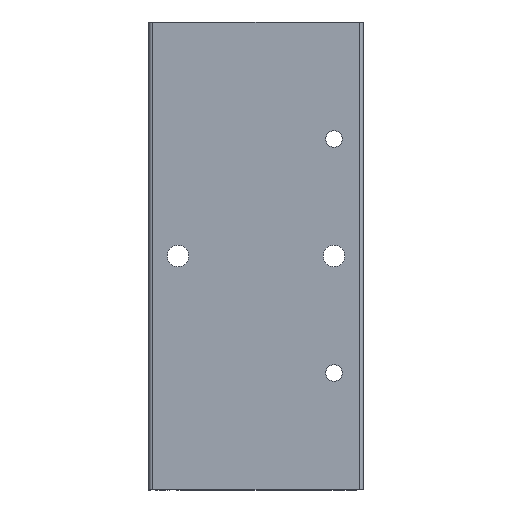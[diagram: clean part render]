
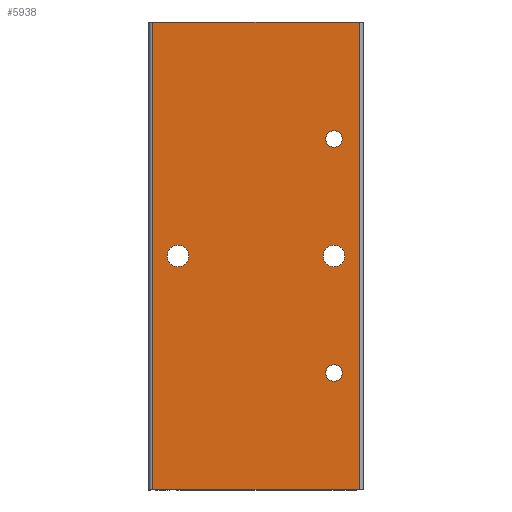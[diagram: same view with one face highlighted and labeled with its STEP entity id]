
A CAD part, front view. The second image highlights one B-rep face of the part: STEP entity #5938.
In plain terms, the highlighted planar face has unit normal (0, -1, 0).
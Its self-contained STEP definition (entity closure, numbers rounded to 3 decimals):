
#3 = VERTEX_POINT ( 'NONE', #413 ) ;
#26 = EDGE_CURVE ( 'NONE', #27, #28, #360, .T. ) ;
#27 = VERTEX_POINT ( 'NONE', #355 ) ;
#28 = VERTEX_POINT ( 'NONE', #354 ) ;
#52 = VERTEX_POINT ( 'NONE', #687 ) ;
#67 = EDGE_CURVE ( 'NONE', #68, #425, #507, .T. ) ;
#68 = VERTEX_POINT ( 'NONE', #503 ) ;
#152 = EDGE_CURVE ( 'NONE', #3, #153, #827, .T. ) ;
#153 = VERTEX_POINT ( 'NONE', #851 ) ;
#189 = EDGE_CURVE ( 'NONE', #52, #190, #781, .T. ) ;
#190 = VERTEX_POINT ( 'NONE', #776 ) ;
#354 = CARTESIAN_POINT ( 'NONE',  ( 22.5, -15., -27.9 ) ) ;
#355 = CARTESIAN_POINT ( 'NONE',  ( 22.5, -15., -32.1 ) ) ;
#356 = DIRECTION ( 'NONE',  ( -1., 0., 0. ) ) ;
#357 = DIRECTION ( 'NONE',  ( 0., 1., 0. ) ) ;
#358 = CARTESIAN_POINT ( 'NONE',  ( 22.5, -15., -30. ) ) ;
#359 = AXIS2_PLACEMENT_3D ( 'NONE', #358, #357, #356 ) ;
#360 = CIRCLE ( 'NONE', #359, 2.1 ) ;
#413 = CARTESIAN_POINT ( 'NONE',  ( 22.5, -15., -2.75 ) ) ;
#425 = VERTEX_POINT ( 'NONE', #1276 ) ;
#503 = CARTESIAN_POINT ( 'NONE',  ( -17.5, -15., -2.75 ) ) ;
#504 = DIRECTION ( 'NONE',  ( 0., 0., 1. ) ) ;
#505 = DIRECTION ( 'NONE',  ( 0., 1., 0. ) ) ;
#506 = AXIS2_PLACEMENT_3D ( 'NONE', #662, #505, #504 ) ;
#507 = CIRCLE ( 'NONE', #506, 2.75 ) ;
#662 = CARTESIAN_POINT ( 'NONE',  ( -17.5, -15., 0. ) ) ;
#687 = CARTESIAN_POINT ( 'NONE',  ( 22.5, -15., 27.9 ) ) ;
#776 = CARTESIAN_POINT ( 'NONE',  ( 22.5, -15., 32.1 ) ) ;
#777 = DIRECTION ( 'NONE',  ( -1., 0., 0. ) ) ;
#778 = DIRECTION ( 'NONE',  ( 0., 1., 0. ) ) ;
#779 = CARTESIAN_POINT ( 'NONE',  ( 22.5, -15., 30. ) ) ;
#780 = AXIS2_PLACEMENT_3D ( 'NONE', #779, #778, #777 ) ;
#781 = CIRCLE ( 'NONE', #780, 2.1 ) ;
#824 = DIRECTION ( 'NONE',  ( 0., 0., 1. ) ) ;
#825 = DIRECTION ( 'NONE',  ( 0., 1., 0. ) ) ;
#826 = AXIS2_PLACEMENT_3D ( 'NONE', #850, #825, #824 ) ;
#827 = CIRCLE ( 'NONE', #826, 2.75 ) ;
#850 = CARTESIAN_POINT ( 'NONE',  ( 22.5, -15., 0. ) ) ;
#851 = CARTESIAN_POINT ( 'NONE',  ( 22.5, -15., 2.75 ) ) ;
#1276 = CARTESIAN_POINT ( 'NONE',  ( -17.5, -15., 2.75 ) ) ;
#3034 = CARTESIAN_POINT ( 'NONE',  ( 29., -15., 60. ) ) ;
#3035 = DIRECTION ( 'NONE',  ( 1., 0., 0. ) ) ;
#3036 = VECTOR ( 'NONE', #3035, 1000. ) ;
#3037 = CARTESIAN_POINT ( 'NONE',  ( -25., -15., 60. ) ) ;
#3038 = LINE ( 'NONE', #3037, #3036 ) ;
#3039 = CARTESIAN_POINT ( 'NONE',  ( -24., -15., 60. ) ) ;
#3147 = AXIS2_PLACEMENT_3D ( 'NONE', #3177, #3176, #3175 ) ;
#3148 = CIRCLE ( 'NONE', #3147, 2.1 ) ;
#3171 = DIRECTION ( 'NONE',  ( 0., 0., 1. ) ) ;
#3172 = VECTOR ( 'NONE', #3171, 1000. ) ;
#3173 = CARTESIAN_POINT ( 'NONE',  ( 29., -15., 60. ) ) ;
#3174 = LINE ( 'NONE', #3173, #3172 ) ;
#3175 = DIRECTION ( 'NONE',  ( -1., 0., 0. ) ) ;
#3176 = DIRECTION ( 'NONE',  ( 0., 1., 0. ) ) ;
#3177 = CARTESIAN_POINT ( 'NONE',  ( 22.5, -15., -30. ) ) ;
#3226 = CARTESIAN_POINT ( 'NONE',  ( -24., -15., -60. ) ) ;
#3613 = DIRECTION ( 'NONE',  ( 0., 0., 1. ) ) ;
#3614 = DIRECTION ( 'NONE',  ( 0., 1., 0. ) ) ;
#3615 = CARTESIAN_POINT ( 'NONE',  ( -17.5, -15., 0. ) ) ;
#3616 = AXIS2_PLACEMENT_3D ( 'NONE', #3615, #3614, #3613 ) ;
#3617 = CIRCLE ( 'NONE', #3616, 2.75 ) ;
#4363 = DIRECTION ( 'NONE',  ( 0., 0., -1. ) ) ;
#4364 = VECTOR ( 'NONE', #4363, 1000. ) ;
#4365 = CARTESIAN_POINT ( 'NONE',  ( -24., -15., 60. ) ) ;
#4366 = LINE ( 'NONE', #4365, #4364 ) ;
#4439 = DIRECTION ( 'NONE',  ( 0., 0., 1. ) ) ;
#4440 = DIRECTION ( 'NONE',  ( 0., 1., 0. ) ) ;
#4441 = CARTESIAN_POINT ( 'NONE',  ( 22.5, -15., 0. ) ) ;
#4442 = AXIS2_PLACEMENT_3D ( 'NONE', #4441, #4440, #4439 ) ;
#4443 = CIRCLE ( 'NONE', #4442, 2.75 ) ;
#4517 = DIRECTION ( 'NONE',  ( -1., 0., 0. ) ) ;
#4518 = DIRECTION ( 'NONE',  ( 0., 1., 0. ) ) ;
#4519 = CARTESIAN_POINT ( 'NONE',  ( 22.5, -15., 30. ) ) ;
#4520 = AXIS2_PLACEMENT_3D ( 'NONE', #4519, #4518, #4517 ) ;
#4521 = CIRCLE ( 'NONE', #4520, 2.1 ) ;
#4526 = DIRECTION ( 'NONE',  ( -1., 0., 0. ) ) ;
#4527 = DIRECTION ( 'NONE',  ( 0., 1., 0. ) ) ;
#4528 = CARTESIAN_POINT ( 'NONE',  ( -25., -15., 60. ) ) ;
#4529 = AXIS2_PLACEMENT_3D ( 'NONE', #4528, #4527, #4526 ) ;
#4530 = PLANE ( 'NONE',  #4529 ) ;
#4531 = FACE_OUTER_BOUND ( 'NONE', #6046, .T. ) ;
#4532 = FACE_BOUND ( 'NONE', #5816, .T. ) ;
#4533 = FACE_BOUND ( 'NONE', #6049, .T. ) ;
#4534 = FACE_BOUND ( 'NONE', #5879, .T. ) ;
#4535 = FACE_BOUND ( 'NONE', #5876, .T. ) ;
#4582 = DIRECTION ( 'NONE',  ( 1., 0., 0. ) ) ;
#4583 = VECTOR ( 'NONE', #4582, 1000. ) ;
#4584 = CARTESIAN_POINT ( 'NONE',  ( -25., -15., -60. ) ) ;
#4585 = LINE ( 'NONE', #4584, #4583 ) ;
#4595 = CARTESIAN_POINT ( 'NONE',  ( 29., -15., -60. ) ) ;
#5639 = VERTEX_POINT ( 'NONE', #3039 ) ;
#5641 = EDGE_CURVE ( 'NONE', #5639, #5642, #3038, .T. ) ;
#5642 = VERTEX_POINT ( 'NONE', #3034 ) ;
#5805 = VERTEX_POINT ( 'NONE', #3226 ) ;
#5816 = EDGE_LOOP ( 'NONE', ( #5885, #6010 ) ) ;
#5822 = ORIENTED_EDGE ( 'NONE', *, *, #5823, .T. ) ;
#5823 = EDGE_CURVE ( 'NONE', #28, #27, #3148, .T. ) ;
#5824 = ORIENTED_EDGE ( 'NONE', *, *, #26, .T. ) ;
#5826 = ORIENTED_EDGE ( 'NONE', *, *, #5827, .T. ) ;
#5827 = EDGE_CURVE ( 'NONE', #5901, #5642, #3174, .T. ) ;
#5831 = ORIENTED_EDGE ( 'NONE', *, *, #5943, .T. ) ;
#5876 = EDGE_LOOP ( 'NONE', ( #5822, #5824 ) ) ;
#5879 = EDGE_LOOP ( 'NONE', ( #5831, #5944 ) ) ;
#5883 = EDGE_CURVE ( 'NONE', #153, #3, #4443, .T. ) ;
#5884 = ORIENTED_EDGE ( 'NONE', *, *, #152, .T. ) ;
#5885 = ORIENTED_EDGE ( 'NONE', *, *, #6009, .T. ) ;
#5901 = VERTEX_POINT ( 'NONE', #4595 ) ;
#5909 = EDGE_CURVE ( 'NONE', #5805, #5901, #4585, .T. ) ;
#5938 = ADVANCED_FACE ( 'NONE', ( #4535, #4534, #4533, #4532, #4531 ), #4530, .F. ) ;
#5943 = EDGE_CURVE ( 'NONE', #190, #52, #4521, .T. ) ;
#5944 = ORIENTED_EDGE ( 'NONE', *, *, #189, .T. ) ;
#5945 = ORIENTED_EDGE ( 'NONE', *, *, #5883, .T. ) ;
#6003 = ORIENTED_EDGE ( 'NONE', *, *, #6004, .T. ) ;
#6004 = EDGE_CURVE ( 'NONE', #5639, #5805, #4366, .T. ) ;
#6005 = ORIENTED_EDGE ( 'NONE', *, *, #5909, .T. ) ;
#6009 = EDGE_CURVE ( 'NONE', #425, #68, #3617, .T. ) ;
#6010 = ORIENTED_EDGE ( 'NONE', *, *, #67, .T. ) ;
#6011 = ORIENTED_EDGE ( 'NONE', *, *, #5641, .F. ) ;
#6046 = EDGE_LOOP ( 'NONE', ( #6011, #6003, #6005, #5826 ) ) ;
#6049 = EDGE_LOOP ( 'NONE', ( #5945, #5884 ) ) ;
